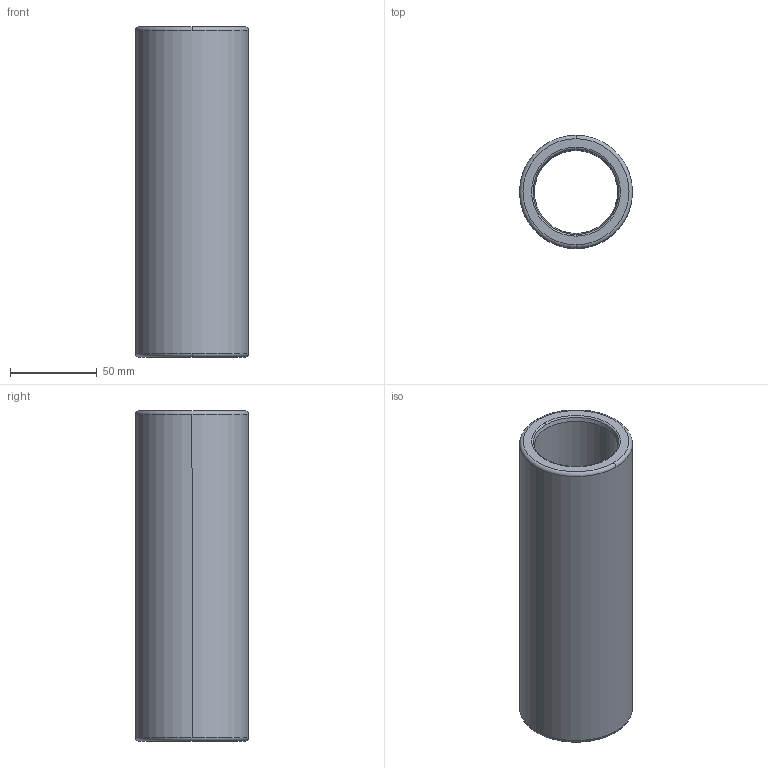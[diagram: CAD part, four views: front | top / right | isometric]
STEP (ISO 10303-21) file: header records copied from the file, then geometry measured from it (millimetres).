
FILE_DESCRIPTION((''),'2;1');
FILE_NAME('B30_040_190.stp','2009-01-12T10:51:38',(''),(''),'Mechanical Desktop 2009','Mechanical Desktop 2009',', , ');
FILE_SCHEMA(('CONFIG_CONTROL_DESIGN'));
Length unit declared in the file: millimetre
Products named in the file (2): Product; blmdl1
Assembly tree (1 placements, depth 2):
  Product
    blmdl1
Bounding box: 64.99 x 64.99 x 190 mm (x, y, z)
Volume: 286182.9 mm3; surface area: 69815.6 mm2
Topology: 1 solids, 1 shells, 18 faces, 48 edges, 32 vertices
Faces by surface type: torus 8, cylinder 4, cone 4, plane 2
Entity records: 705 total; most frequent: DIRECTION 128, CARTESIAN_POINT 100, ORIENTED_EDGE 96, AXIS2_PLACEMENT_3D 60, EDGE_CURVE 48, CIRCLE 40, VERTEX_POINT 32, EDGE_LOOP 20
